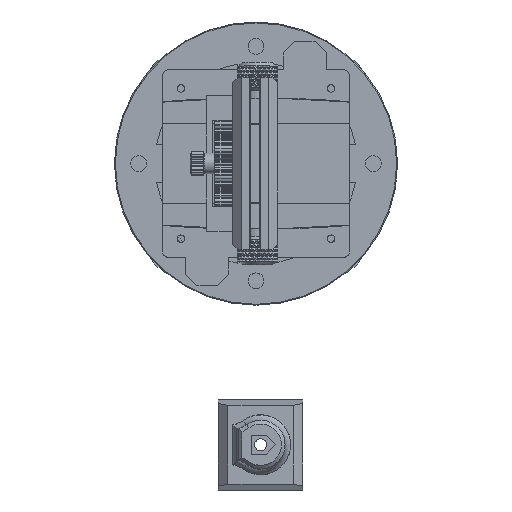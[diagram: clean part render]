
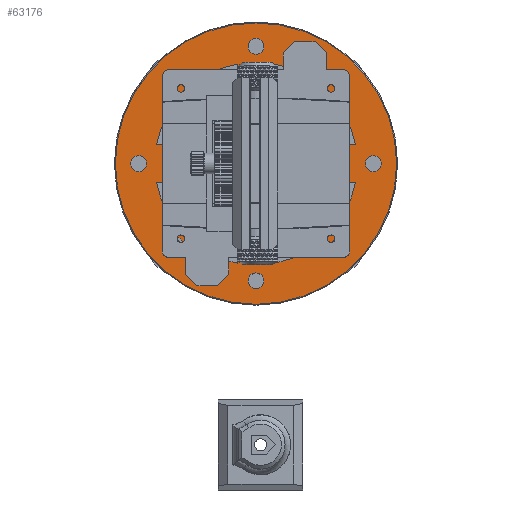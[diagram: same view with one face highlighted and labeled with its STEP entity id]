
A CAD part, top view. The second image highlights one B-rep face of the part: STEP entity #63176.
In plain terms, the highlighted planar face has unit normal (0, 0, 1).
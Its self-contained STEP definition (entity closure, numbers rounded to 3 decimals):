
#2246=FACE_BOUND('',#11809,.T.);
#2247=FACE_BOUND('',#11810,.T.);
#2248=FACE_BOUND('',#11811,.T.);
#2249=FACE_BOUND('',#11812,.T.);
#2250=FACE_BOUND('',#11813,.T.);
#2251=FACE_BOUND('',#11814,.T.);
#2252=FACE_BOUND('',#11815,.T.);
#2253=FACE_BOUND('',#11816,.T.);
#2254=FACE_BOUND('',#11817,.T.);
#2255=FACE_BOUND('',#11818,.T.);
#2256=FACE_BOUND('',#11819,.T.);
#2257=FACE_BOUND('',#11820,.T.);
#2258=FACE_BOUND('',#11821,.T.);
#2997=PLANE('',#67710);
#7361=FACE_OUTER_BOUND('',#11808,.T.);
#11808=EDGE_LOOP('',(#53779));
#11809=EDGE_LOOP('',(#53780,#53781,#53782));
#11810=EDGE_LOOP('',(#53783,#53784,#53785));
#11811=EDGE_LOOP('',(#53786,#53787,#53788));
#11812=EDGE_LOOP('',(#53789));
#11813=EDGE_LOOP('',(#53790));
#11814=EDGE_LOOP('',(#53791,#53792,#53793));
#11815=EDGE_LOOP('',(#53794));
#11816=EDGE_LOOP('',(#53795));
#11817=EDGE_LOOP('',(#53796));
#11818=EDGE_LOOP('',(#53797));
#11819=EDGE_LOOP('',(#53798));
#11820=EDGE_LOOP('',(#53799));
#11821=EDGE_LOOP('',(#53800));
#18754=LINE('',#156892,#21329);
#18755=LINE('',#156895,#21330);
#18756=LINE('',#156898,#21331);
#18757=LINE('',#156901,#21332);
#18758=LINE('',#156906,#21333);
#18759=LINE('',#156907,#21334);
#18760=LINE('',#156916,#21335);
#18761=LINE('',#156917,#21336);
#21329=VECTOR('',#78005,10.);
#21330=VECTOR('',#78008,10.);
#21331=VECTOR('',#78009,10.);
#21332=VECTOR('',#78012,10.);
#21333=VECTOR('',#78015,10.);
#21334=VECTOR('',#78016,10.);
#21335=VECTOR('',#78023,10.);
#21336=VECTOR('',#78024,10.);
#23860=CIRCLE('',#67707,74.985);
#23862=CIRCLE('',#67711,54.);
#23863=CIRCLE('',#67712,54.);
#23864=CIRCLE('',#67713,54.);
#23865=CIRCLE('',#67714,4.25);
#23866=CIRCLE('',#67715,4.25);
#23867=CIRCLE('',#67716,54.);
#23868=CIRCLE('',#67717,4.25);
#23869=CIRCLE('',#67718,4.25);
#23870=CIRCLE('',#67719,4.25);
#23871=CIRCLE('',#67720,4.25);
#23872=CIRCLE('',#67721,4.25);
#23873=CIRCLE('',#67722,4.25);
#23874=CIRCLE('',#67723,4.25);
#29486=VERTEX_POINT('',#156882);
#29488=VERTEX_POINT('',#156890);
#29489=VERTEX_POINT('',#156891);
#29490=VERTEX_POINT('',#156893);
#29491=VERTEX_POINT('',#156896);
#29492=VERTEX_POINT('',#156897);
#29493=VERTEX_POINT('',#156899);
#29494=VERTEX_POINT('',#156902);
#29495=VERTEX_POINT('',#156903);
#29496=VERTEX_POINT('',#156905);
#29497=VERTEX_POINT('',#156908);
#29498=VERTEX_POINT('',#156910);
#29499=VERTEX_POINT('',#156912);
#29500=VERTEX_POINT('',#156913);
#29501=VERTEX_POINT('',#156915);
#29502=VERTEX_POINT('',#156918);
#29503=VERTEX_POINT('',#156920);
#29504=VERTEX_POINT('',#156922);
#29505=VERTEX_POINT('',#156924);
#29506=VERTEX_POINT('',#156926);
#29507=VERTEX_POINT('',#156928);
#29508=VERTEX_POINT('',#156930);
#37964=EDGE_CURVE('',#29486,#29486,#23860,.T.);
#37968=EDGE_CURVE('',#29488,#29489,#18754,.T.);
#37969=EDGE_CURVE('',#29489,#29490,#23862,.T.);
#37970=EDGE_CURVE('',#29490,#29488,#18755,.T.);
#37971=EDGE_CURVE('',#29491,#29492,#18756,.T.);
#37972=EDGE_CURVE('',#29492,#29493,#23863,.T.);
#37973=EDGE_CURVE('',#29493,#29491,#18757,.T.);
#37974=EDGE_CURVE('',#29494,#29495,#23864,.T.);
#37975=EDGE_CURVE('',#29495,#29496,#18758,.T.);
#37976=EDGE_CURVE('',#29496,#29494,#18759,.T.);
#37977=EDGE_CURVE('',#29497,#29497,#23865,.T.);
#37978=EDGE_CURVE('',#29498,#29498,#23866,.T.);
#37979=EDGE_CURVE('',#29499,#29500,#23867,.T.);
#37980=EDGE_CURVE('',#29500,#29501,#18760,.T.);
#37981=EDGE_CURVE('',#29501,#29499,#18761,.T.);
#37982=EDGE_CURVE('',#29502,#29502,#23868,.T.);
#37983=EDGE_CURVE('',#29503,#29503,#23869,.T.);
#37984=EDGE_CURVE('',#29504,#29504,#23870,.T.);
#37985=EDGE_CURVE('',#29505,#29505,#23871,.T.);
#37986=EDGE_CURVE('',#29506,#29506,#23872,.T.);
#37987=EDGE_CURVE('',#29507,#29507,#23873,.T.);
#37988=EDGE_CURVE('',#29508,#29508,#23874,.T.);
#53779=ORIENTED_EDGE('',*,*,#37964,.F.);
#53780=ORIENTED_EDGE('',*,*,#37968,.T.);
#53781=ORIENTED_EDGE('',*,*,#37969,.T.);
#53782=ORIENTED_EDGE('',*,*,#37970,.T.);
#53783=ORIENTED_EDGE('',*,*,#37971,.T.);
#53784=ORIENTED_EDGE('',*,*,#37972,.T.);
#53785=ORIENTED_EDGE('',*,*,#37973,.T.);
#53786=ORIENTED_EDGE('',*,*,#37974,.T.);
#53787=ORIENTED_EDGE('',*,*,#37975,.T.);
#53788=ORIENTED_EDGE('',*,*,#37976,.T.);
#53789=ORIENTED_EDGE('',*,*,#37977,.T.);
#53790=ORIENTED_EDGE('',*,*,#37978,.T.);
#53791=ORIENTED_EDGE('',*,*,#37979,.T.);
#53792=ORIENTED_EDGE('',*,*,#37980,.T.);
#53793=ORIENTED_EDGE('',*,*,#37981,.T.);
#53794=ORIENTED_EDGE('',*,*,#37982,.T.);
#53795=ORIENTED_EDGE('',*,*,#37983,.T.);
#53796=ORIENTED_EDGE('',*,*,#37984,.T.);
#53797=ORIENTED_EDGE('',*,*,#37985,.T.);
#53798=ORIENTED_EDGE('',*,*,#37986,.T.);
#53799=ORIENTED_EDGE('',*,*,#37987,.T.);
#53800=ORIENTED_EDGE('',*,*,#37988,.T.);
#63176=ADVANCED_FACE('',(#7361,#2246,#2247,#2248,#2249,#2250,#2251,#2252,
#2253,#2254,#2255,#2256,#2257,#2258),#2997,.T.);
#67707=AXIS2_PLACEMENT_3D('',#156883,#77995,#77996);
#67710=AXIS2_PLACEMENT_3D('',#156889,#78003,#78004);
#67711=AXIS2_PLACEMENT_3D('',#156894,#78006,#78007);
#67712=AXIS2_PLACEMENT_3D('',#156900,#78010,#78011);
#67713=AXIS2_PLACEMENT_3D('',#156904,#78013,#78014);
#67714=AXIS2_PLACEMENT_3D('',#156909,#78017,#78018);
#67715=AXIS2_PLACEMENT_3D('',#156911,#78019,#78020);
#67716=AXIS2_PLACEMENT_3D('',#156914,#78021,#78022);
#67717=AXIS2_PLACEMENT_3D('',#156919,#78025,#78026);
#67718=AXIS2_PLACEMENT_3D('',#156921,#78027,#78028);
#67719=AXIS2_PLACEMENT_3D('',#156923,#78029,#78030);
#67720=AXIS2_PLACEMENT_3D('',#156925,#78031,#78032);
#67721=AXIS2_PLACEMENT_3D('',#156927,#78033,#78034);
#67722=AXIS2_PLACEMENT_3D('',#156929,#78035,#78036);
#67723=AXIS2_PLACEMENT_3D('',#156931,#78037,#78038);
#77995=DIRECTION('center_axis',(0.,0.,-1.));
#77996=DIRECTION('ref_axis',(-1.,0.,0.));
#78003=DIRECTION('center_axis',(0.,0.,1.));
#78004=DIRECTION('ref_axis',(-1.,0.,0.));
#78005=DIRECTION('',(0.,1.,0.));
#78006=DIRECTION('center_axis',(0.,0.,-1.));
#78007=DIRECTION('ref_axis',(-1.,0.,0.));
#78008=DIRECTION('',(-1.,0.,0.));
#78009=DIRECTION('',(0.,-1.,0.));
#78010=DIRECTION('center_axis',(0.,0.,-1.));
#78011=DIRECTION('ref_axis',(-1.,0.,0.));
#78012=DIRECTION('',(1.,0.,0.));
#78013=DIRECTION('center_axis',(0.,0.,-1.));
#78014=DIRECTION('ref_axis',(-1.,0.,0.));
#78015=DIRECTION('',(0.,1.,0.));
#78016=DIRECTION('',(1.,0.,0.));
#78017=DIRECTION('center_axis',(0.,0.,-1.));
#78018=DIRECTION('ref_axis',(-1.,0.,0.));
#78019=DIRECTION('center_axis',(0.,0.,-1.));
#78020=DIRECTION('ref_axis',(-1.,0.,0.));
#78021=DIRECTION('center_axis',(0.,0.,-1.));
#78022=DIRECTION('ref_axis',(-1.,0.,0.));
#78023=DIRECTION('',(0.,-1.,0.));
#78024=DIRECTION('',(-1.,0.,0.));
#78025=DIRECTION('center_axis',(0.,0.,-1.));
#78026=DIRECTION('ref_axis',(-1.,0.,0.));
#78027=DIRECTION('center_axis',(0.,0.,-1.));
#78028=DIRECTION('ref_axis',(-1.,0.,0.));
#78029=DIRECTION('center_axis',(0.,0.,-1.));
#78030=DIRECTION('ref_axis',(-1.,0.,0.));
#78031=DIRECTION('center_axis',(0.,0.,-1.));
#78032=DIRECTION('ref_axis',(-1.,0.,0.));
#78033=DIRECTION('center_axis',(0.,0.,-1.));
#78034=DIRECTION('ref_axis',(-1.,0.,0.));
#78035=DIRECTION('center_axis',(0.,0.,-1.));
#78036=DIRECTION('ref_axis',(-1.,0.,0.));
#78037=DIRECTION('center_axis',(0.,0.,-1.));
#78038=DIRECTION('ref_axis',(-1.,0.,0.));
#156882=CARTESIAN_POINT('',(74.985,0.,1.));
#156883=CARTESIAN_POINT('Origin',(0.,0.,1.));
#156889=CARTESIAN_POINT('Origin',(0.,0.,1.));
#156890=CARTESIAN_POINT('',(10.,10.,1.));
#156891=CARTESIAN_POINT('',(10.,53.066,1.));
#156892=CARTESIAN_POINT('',(10.,72.6,1.));
#156893=CARTESIAN_POINT('',(53.066,10.,1.));
#156894=CARTESIAN_POINT('Origin',(0.,0.,1.));
#156895=CARTESIAN_POINT('',(-72.6,10.,1.));
#156896=CARTESIAN_POINT('',(-10.,-10.,1.));
#156897=CARTESIAN_POINT('',(-10.,-53.066,1.));
#156898=CARTESIAN_POINT('',(-10.,-72.6,1.));
#156899=CARTESIAN_POINT('',(-53.066,-10.,1.));
#156900=CARTESIAN_POINT('Origin',(0.,0.,1.));
#156901=CARTESIAN_POINT('',(72.6,-10.,1.));
#156902=CARTESIAN_POINT('',(53.066,-10.,1.));
#156903=CARTESIAN_POINT('',(10.,-53.066,1.));
#156904=CARTESIAN_POINT('Origin',(0.,0.,1.));
#156905=CARTESIAN_POINT('',(10.,-10.,1.));
#156906=CARTESIAN_POINT('',(10.,72.6,1.));
#156907=CARTESIAN_POINT('',(72.6,-10.,1.));
#156908=CARTESIAN_POINT('',(4.25,0.,1.));
#156909=CARTESIAN_POINT('Origin',(0.,0.,1.));
#156910=CARTESIAN_POINT('',(66.75,0.,1.));
#156911=CARTESIAN_POINT('Origin',(62.5,0.,1.));
#156912=CARTESIAN_POINT('',(-53.066,10.,1.));
#156913=CARTESIAN_POINT('',(-10.,53.066,1.));
#156914=CARTESIAN_POINT('Origin',(0.,0.,1.));
#156915=CARTESIAN_POINT('',(-10.,10.,1.));
#156916=CARTESIAN_POINT('',(-10.,-72.6,1.));
#156917=CARTESIAN_POINT('',(-72.6,10.,1.));
#156918=CARTESIAN_POINT('',(48.444,44.194,1.));
#156919=CARTESIAN_POINT('Origin',(44.194,44.194,1.));
#156920=CARTESIAN_POINT('',(-39.944,-44.194,1.));
#156921=CARTESIAN_POINT('Origin',(-44.194,-44.194,1.));
#156922=CARTESIAN_POINT('',(-58.25,0.,1.));
#156923=CARTESIAN_POINT('Origin',(-62.5,0.,1.));
#156924=CARTESIAN_POINT('',(4.25,62.5,1.));
#156925=CARTESIAN_POINT('Origin',(0.,62.5,1.));
#156926=CARTESIAN_POINT('',(-39.944,44.194,1.));
#156927=CARTESIAN_POINT('Origin',(-44.194,44.194,1.));
#156928=CARTESIAN_POINT('',(48.444,-44.194,1.));
#156929=CARTESIAN_POINT('Origin',(44.194,-44.194,1.));
#156930=CARTESIAN_POINT('',(4.25,-62.5,1.));
#156931=CARTESIAN_POINT('Origin',(0.,-62.5,1.));
